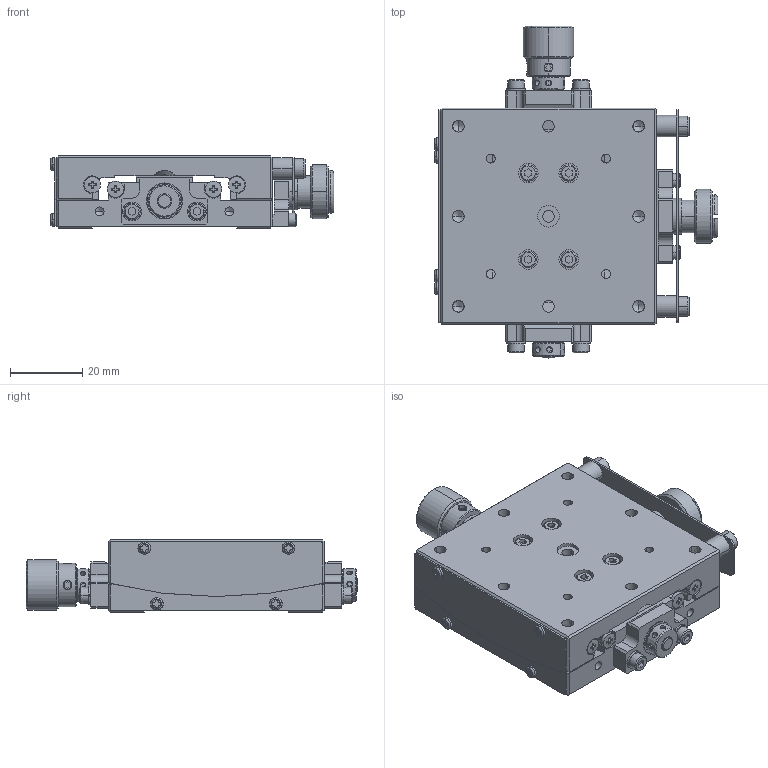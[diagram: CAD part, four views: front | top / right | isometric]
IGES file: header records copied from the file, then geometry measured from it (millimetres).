
Global section: file name: No Iges File Name specified; native system: AutoDesk Inventor R11.0; preprocessor: AutoDesk Inventor Iges Exporter R11.0; author: No Author specified; organization: No Organization specified; date: 20070828.160846; units: millimetre
Bounding box: 78.74 x 92.1 x 20 mm (x, y, z)
Volume: 65640.8 mm3; surface area: 34084.6 mm2
Topology: 2 solids, 55 shells, 1459 faces, 3611 edges, 2252 vertices
Faces by surface type: plane 610, bspline 407, cylinder 205, cone 118, revolution 77, torus 26, sphere 16
